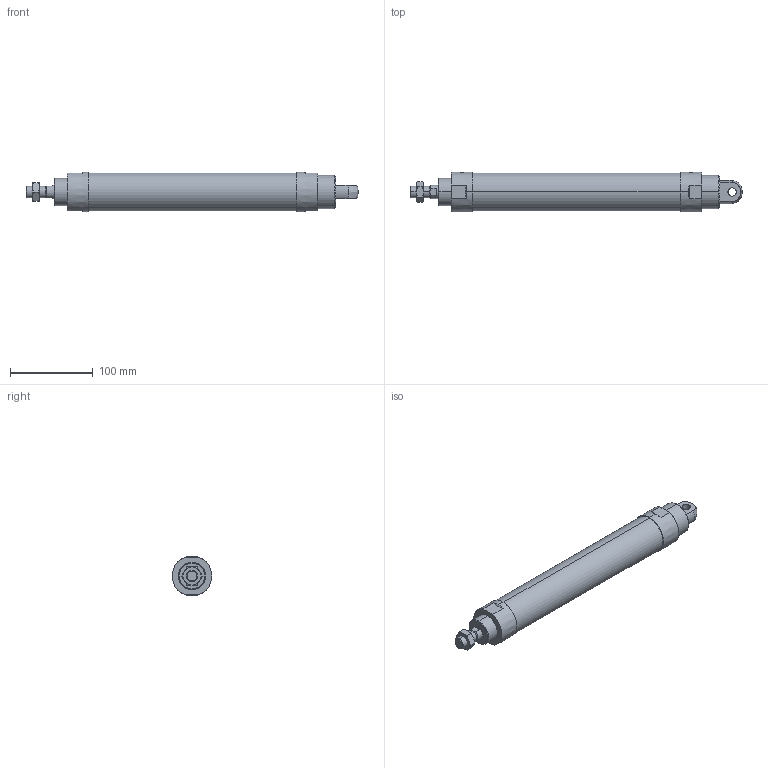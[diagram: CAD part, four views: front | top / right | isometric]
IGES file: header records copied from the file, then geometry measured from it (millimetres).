
Start section: SolidWorks IGES file using analytic representation for surfaces
Global section: file name: C:\Users\Toshiba\Desktop\J#2-40-200-C.IGS; native system: SolidWorks 2014; preprocessor: SolidWorks 2014; author: Toshiba; date: 160308.160358; units: millimetre
Bounding box: 402 x 48 x 48 mm (x, y, z)
Surface area: 58627.4 mm2 (no closed solid volume)
Topology: 0 solids, 0 shells, 81 faces, 1622 edges, 1618 vertices
Faces by surface type: bspline 42, revolution 39
